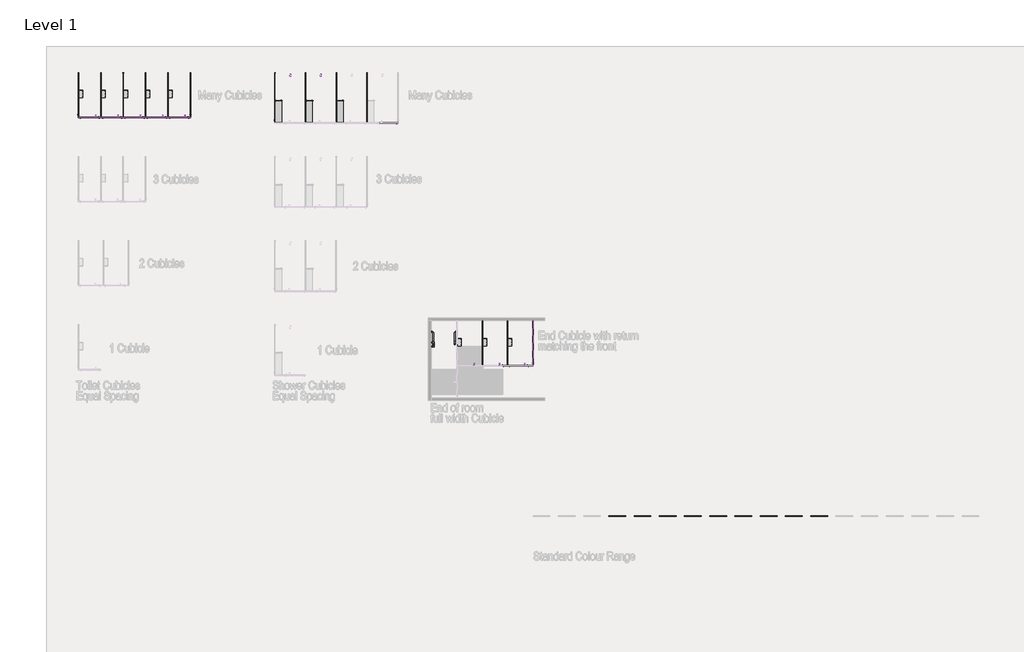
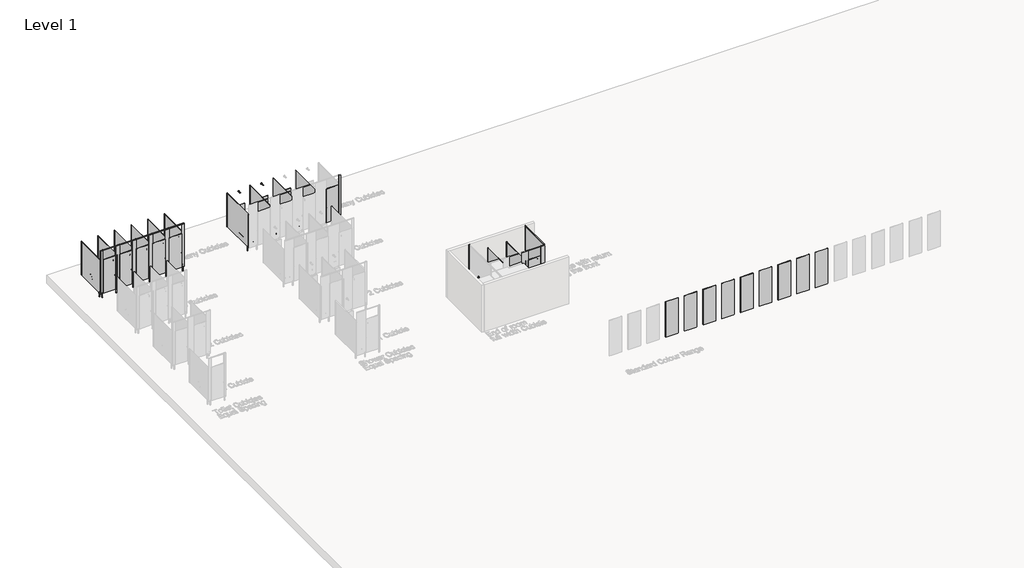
# One storey, part 6 of 21: 119 furniture elements, 11 proxies, 2 flow terminals.
"""IFC4 building model written with IfcOpenShell, lengths in millimetres."""

from ifc_helpers import new_model, si_unit, origin, place, context, project, spatial, transform, mapped, element, save
from components import grab_rail_angled_generic_variable_c761e824, toilet_paper_dispenser_single_generic_jumbo_roll_standard_5525cc7b, toilet_paper_dispenser_single_generic_type_1_standard_8c8862bc, shower_outlet_generic_cylinder_fixed_standard_5790de0d, furniture_50x50x3_ea_0fb80352, single_jumbo_roll_84fdac57, standard_9bd00577, standard_17157e73, standard_65739662, standard_f6136b52, standard_7c3ea897, standard_652f884a, standard_0ccb0c43, standard_39e46a34, standard_4bb00b36, standard_c51d1a0a, standard_48cda198, standard_a03910e7, standard_bb5a53c5, standard_d9afaeec, standard_d7bb3af3, standard_31cafe8a, standard_3d746f33, standard_4055153e, standard_ba3eb68e, standard_a495ee6c, standard_6f46902e, standard_67804c96, standard_4ddd5521, standard_c67f05f5, standard_1bf8a628

model = new_model("IFC4")

# Units and contexts
model_context = context("Model", 3, world=origin())
ifc_project = project(units=[si_unit("LENGTHUNIT", "METRE", prefix="MILLI")], contexts=[model_context])

# Site, building, storey
site = spatial("IfcSite", under=ifc_project)
building = spatial("IfcBuilding", under=site)
storey = spatial("IfcBuildingStorey", under=building, Name="Level 1", Elevation=0.0)

# Proxies
placement = place(None, origin())
grab_rail_angled_generic_variable_shape = grab_rail_angled_generic_variable_c761e824(model_context)
element("IfcBuildingElementProxy", 1, Name="Grab Rail-Angled-Generic-Variable : Ambulant-32Ø 450+450@90°", ObjectType="Grab Rail-Angled-Generic-Variable : Ambulant-32Ø 450+450@90°", at=placement, inside=storey, context=model_context, shape_type="MappedRepresentation", body=[
    mapped(grab_rail_angled_generic_variable_shape, transform((-14320.8822845, 24305.3616863, 784.0), x_axis=(0.0, 1.0, 0.0), y_axis=(0.0, 0.0, 1.0), z_axis=(1.0, 0.0, 0.0))),
])
element("IfcBuildingElementProxy", 2, Name="Grab Rail-Angled-Generic-Variable : Ambulant-32Ø 450+450@90°", ObjectType="Grab Rail-Angled-Generic-Variable : Ambulant-32Ø 450+450@90°", at=placement, inside=storey, context=model_context, shape_type="MappedRepresentation", body=[
    mapped(grab_rail_angled_generic_variable_shape, transform((-13400.8822845, 24080.8616863, 1009.0), x_axis=(0.0, 0.0, 1.0), y_axis=(0.0, 1.0, 0.0), z_axis=(-1.0, 0.0, 0.0))),
])
toilet_paper_dispenser_single_generic_jumbo_roll_standard_shape = toilet_paper_dispenser_single_generic_jumbo_roll_standard_5525cc7b(model_context)
element("IfcBuildingElementProxy", 3, Name="Toilet Paper Dispenser-Single-Generic-Jumbo Roll : Standard", ObjectType="Toilet Paper Dispenser-Single-Generic-Jumbo Roll : Standard", at=placement, inside=storey, context=model_context, shape_type="MappedRepresentation", body=[
    mapped(toilet_paper_dispenser_single_generic_jumbo_roll_standard_shape, transform((-12487.8822845, 24151.3616863, 561.5), x_axis=(0.0, 1.0, 0.0), y_axis=(0.0, 0.0, 1.0), z_axis=(1.0, 0.0, 0.0))),
])
element("IfcBuildingElementProxy", 4, Name="Toilet Paper Dispenser-Single-Generic-Jumbo Roll : Standard", ObjectType="Toilet Paper Dispenser-Single-Generic-Jumbo Roll : Standard", at=placement, inside=storey, context=model_context, shape_type="MappedRepresentation", body=[
    mapped(toilet_paper_dispenser_single_generic_jumbo_roll_standard_shape, transform((-11587.8822845, 24151.3616863, 561.5), x_axis=(0.0, 1.0, 0.0), y_axis=(0.0, 0.0, 1.0), z_axis=(1.0, 0.0, 0.0))),
])
element("IfcBuildingElementProxy", 5, Name="Toilet Paper Dispenser-Single-Generic-Jumbo Roll : Standard", ObjectType="Toilet Paper Dispenser-Single-Generic-Jumbo Roll : Standard", at=placement, inside=storey, context=model_context, shape_type="MappedRepresentation", body=[
    mapped(toilet_paper_dispenser_single_generic_jumbo_roll_standard_shape, transform((-24496.5801542, 33012.2607897, 561.5), x_axis=(0.0, 1.0, 0.0), y_axis=(0.0, 0.0, 1.0), z_axis=(1.0, 0.0, 0.0))),
])
element("IfcBuildingElementProxy", 6, Name="Toilet Paper Dispenser-Single-Generic-Jumbo Roll : Standard", ObjectType="Toilet Paper Dispenser-Single-Generic-Jumbo Roll : Standard", at=placement, inside=storey, context=model_context, shape_type="MappedRepresentation", body=[
    mapped(toilet_paper_dispenser_single_generic_jumbo_roll_standard_shape, transform((-25293.9801542, 33012.2607897, 561.5), x_axis=(0.0, 1.0, 0.0), y_axis=(0.0, 0.0, 1.0), z_axis=(1.0, 0.0, 0.0))),
])
element("IfcBuildingElementProxy", 7, Name="Toilet Paper Dispenser-Single-Generic-Jumbo Roll : Standard", ObjectType="Toilet Paper Dispenser-Single-Generic-Jumbo Roll : Standard", at=placement, inside=storey, context=model_context, shape_type="MappedRepresentation", body=[
    mapped(toilet_paper_dispenser_single_generic_jumbo_roll_standard_shape, transform((-26091.3801542, 33012.2607897, 561.5), x_axis=(0.0, 1.0, 0.0), y_axis=(0.0, 0.0, 1.0), z_axis=(1.0, 0.0, 0.0))),
])
element("IfcBuildingElementProxy", 8, Name="Toilet Paper Dispenser-Single-Generic-Jumbo Roll : Standard", ObjectType="Toilet Paper Dispenser-Single-Generic-Jumbo Roll : Standard", at=placement, inside=storey, context=model_context, shape_type="MappedRepresentation", body=[
    mapped(toilet_paper_dispenser_single_generic_jumbo_roll_standard_shape, transform((-23699.1801542, 33012.2607897, 561.5), x_axis=(0.0, 1.0, 0.0), y_axis=(0.0, 0.0, 1.0), z_axis=(1.0, 0.0, 0.0))),
])
element("IfcBuildingElementProxy", 9, Name="Toilet Paper Dispenser-Single-Generic-Jumbo Roll : Standard", ObjectType="Toilet Paper Dispenser-Single-Generic-Jumbo Roll : Standard", at=placement, inside=storey, context=model_context, shape_type="MappedRepresentation", body=[
    mapped(toilet_paper_dispenser_single_generic_jumbo_roll_standard_shape, transform((-26888.7801542, 33012.2607897, 561.5), x_axis=(0.0, 1.0000000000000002, 0.0), y_axis=(0.0, 0.0, 1.0), z_axis=(1.0000000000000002, 0.0, 0.0))),
])
element("IfcBuildingElementProxy", 10, Name="Toilet Paper Dispenser-Single-Generic-Jumbo Roll : Standard", ObjectType="Toilet Paper Dispenser-Single-Generic-Jumbo Roll : Standard", at=placement, inside=storey, context=model_context, shape_type="MappedRepresentation", body=[
    mapped(toilet_paper_dispenser_single_generic_jumbo_roll_standard_shape, transform((-13387.8822845, 24151.3616863, 561.5), x_axis=(0.0, 1.0000000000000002, 0.0), y_axis=(0.0, 0.0, 1.0), z_axis=(1.0000000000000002, 0.0, 0.0))),
])
toilet_paper_dispenser_single_generic_type_1_standard_shape = toilet_paper_dispenser_single_generic_type_1_standard_8c8862bc(model_context)
element("IfcBuildingElementProxy", 11, Name="Toilet Paper Dispenser-Single-Generic-Type 1 : Standard", ObjectType="Toilet Paper Dispenser-Single-Generic-Type 1 : Standard", at=placement, inside=storey, context=model_context, shape_type="MappedRepresentation", body=[
    mapped(toilet_paper_dispenser_single_generic_type_1_standard_shape, transform((-14320.8822845, 24073.8616863, 605.0), x_axis=(0.0, 1.0, 0.0), y_axis=(0.0, 0.0, 1.0), z_axis=(1.0, 0.0, 0.0))),
])

# Flow terminals
shower_outlet_generic_cylinder_fixed_standard_shape = shower_outlet_generic_cylinder_fixed_standard_5790de0d(model_context)
element("IfcFlowTerminal", 12, ObjectType="Shower-Outlet-Generic-Cylinder-Fixed : Standard", at=placement, inside=storey, context=model_context, shape_type="MappedRepresentation", body=[
    mapped(shower_outlet_generic_cylinder_fixed_standard_shape, transform((-19346.9051542, 33782.2607897, 1800.0), x_axis=(1.0, 0.0, 0.0), y_axis=(0.0, 0.0, 1.0), z_axis=(0.0, -1.0, 0.0))),
])
element("IfcFlowTerminal", 13, ObjectType="Shower-Outlet-Generic-Cylinder-Fixed : Standard", at=placement, inside=storey, context=model_context, shape_type="MappedRepresentation", body=[
    mapped(shower_outlet_generic_cylinder_fixed_standard_shape, transform((-18250.1551542, 33782.2607897, 1800.0), x_axis=(1.0, 0.0, 0.0), y_axis=(0.0, 0.0, 1.0), z_axis=(0.0, -1.0, 0.0))),
])

# Furniture
furniture_50x50x3_ea_shape = furniture_50x50x3_ea_0fb80352(model_context)
element("IfcFurniture", 14, ObjectType="X_Partition-Angle-Duracube-Shower Seat : 50x50x3 EA", at=placement, inside=storey, context=model_context, shape_type="MappedRepresentation", body=[
    mapped(furniture_50x50x3_ea_shape, transform((-17695.2801542, 32719.2607897, 462.0), x_axis=(0.0, -1.0, 0.0), y_axis=(0.0, 0.0, -1.0), z_axis=(1.0, 0.0, 0.0))),
])
element("IfcFurniture", 15, ObjectType="X_Partition-Angle-Duracube-Shower Seat : 50x50x3 EA", at=placement, inside=storey, context=model_context, shape_type="MappedRepresentation", body=[
    mapped(furniture_50x50x3_ea_shape, transform((-17695.2801542, 32032.2607897, 462.0), x_axis=(0.0, -1.0, 0.0), y_axis=(0.0, 0.0, -1.0), z_axis=(1.0, 0.0, 0.0))),
])
element("IfcFurniture", 16, ObjectType="X_Partition-Angle-Duracube-Shower Seat : 50x50x3 EA", at=placement, inside=storey, context=model_context, shape_type="MappedRepresentation", body=[
    mapped(furniture_50x50x3_ea_shape, transform((-17695.2801542, 32375.7607897, 462.0), x_axis=(0.0, -1.0, 0.0), y_axis=(0.0, 0.0, -1.0), z_axis=(1.0, 0.0, 0.0))),
])
element("IfcFurniture", 17, ObjectType="X_Partition-Angle-Duracube-Shower Seat : 50x50x3 EA", at=placement, inside=storey, context=model_context, shape_type="MappedRepresentation", body=[
    mapped(furniture_50x50x3_ea_shape, transform((-17480.2801542, 32769.2607897, 462.0), x_axis=(-1.0, 0.0, 0.0), y_axis=(0.0, 0.0, -1.0), z_axis=(0.0, -1.0, 0.0))),
])
element("IfcFurniture", 18, ObjectType="X_Partition-Angle-Duracube-Shower Seat : 50x50x3 EA", at=placement, inside=storey, context=model_context, shape_type="MappedRepresentation", body=[
    mapped(furniture_50x50x3_ea_shape, transform((-17480.2801542, 32007.2607897, 487.0), x_axis=(-1.0, 0.0, 0.0), y_axis=(0.0, 1.0, 0.0), z_axis=(0.0, 0.0, -1.0))),
])
element("IfcFurniture", 19, ObjectType="X_Partition-Angle-Duracube-Shower Seat : 50x50x3 EA", at=placement, inside=storey, context=model_context, shape_type="MappedRepresentation", body=[
    mapped(furniture_50x50x3_ea_shape, transform((-18792.0301542, 32719.2607897, 462.0), x_axis=(0.0, -1.0, 0.0), y_axis=(0.0, 0.0, -1.0), z_axis=(1.0, 0.0, 0.0))),
])
element("IfcFurniture", 20, ObjectType="X_Partition-Angle-Duracube-Shower Seat : 50x50x3 EA", at=placement, inside=storey, context=model_context, shape_type="MappedRepresentation", body=[
    mapped(furniture_50x50x3_ea_shape, transform((-18792.0301542, 32032.2607897, 462.0), x_axis=(0.0, -1.0, 0.0), y_axis=(0.0, 0.0, -1.0), z_axis=(1.0, 0.0, 0.0))),
])
element("IfcFurniture", 21, ObjectType="X_Partition-Angle-Duracube-Shower Seat : 50x50x3 EA", at=placement, inside=storey, context=model_context, shape_type="MappedRepresentation", body=[
    mapped(furniture_50x50x3_ea_shape, transform((-18792.0301542, 32375.7607897, 462.0), x_axis=(0.0, -1.0, 0.0), y_axis=(0.0, 0.0, -1.0), z_axis=(1.0, 0.0, 0.0))),
])
element("IfcFurniture", 22, ObjectType="X_Partition-Angle-Duracube-Shower Seat : 50x50x3 EA", at=placement, inside=storey, context=model_context, shape_type="MappedRepresentation", body=[
    mapped(furniture_50x50x3_ea_shape, transform((-18577.0301542, 32769.2607897, 462.0), x_axis=(-1.0, 0.0, 0.0), y_axis=(0.0, 0.0, -1.0), z_axis=(0.0, -1.0, 0.0))),
])
element("IfcFurniture", 23, ObjectType="X_Partition-Angle-Duracube-Shower Seat : 50x50x3 EA", at=placement, inside=storey, context=model_context, shape_type="MappedRepresentation", body=[
    mapped(furniture_50x50x3_ea_shape, transform((-18577.0301542, 32007.2607897, 487.0), x_axis=(-1.0, 0.0, 0.0), y_axis=(0.0, 1.0, 0.0), z_axis=(0.0, 0.0, -1.0))),
])
element("IfcFurniture", 24, ObjectType="X_Partition-Angle-Duracube-Shower Seat : 50x50x3 EA", at=placement, inside=storey, context=model_context, shape_type="MappedRepresentation", body=[
    mapped(furniture_50x50x3_ea_shape, transform((-19888.7801542, 32719.2607897, 462.0), x_axis=(0.0, -1.0, 0.0), y_axis=(0.0, 0.0, -1.0), z_axis=(1.0, 0.0, 0.0))),
])
element("IfcFurniture", 25, ObjectType="X_Partition-Angle-Duracube-Shower Seat : 50x50x3 EA", at=placement, inside=storey, context=model_context, shape_type="MappedRepresentation", body=[
    mapped(furniture_50x50x3_ea_shape, transform((-19888.7801542, 32032.2607897, 462.0), x_axis=(0.0, -1.0, 0.0), y_axis=(0.0, 0.0, -1.0), z_axis=(1.0, 0.0, 0.0))),
])
element("IfcFurniture", 26, ObjectType="X_Partition-Angle-Duracube-Shower Seat : 50x50x3 EA", at=placement, inside=storey, context=model_context, shape_type="MappedRepresentation", body=[
    mapped(furniture_50x50x3_ea_shape, transform((-19888.7801542, 32375.7607897, 462.0), x_axis=(0.0, -1.0, 0.0), y_axis=(0.0, 0.0, -1.0), z_axis=(1.0, 0.0, 0.0))),
])
element("IfcFurniture", 27, ObjectType="X_Partition-Angle-Duracube-Shower Seat : 50x50x3 EA", at=placement, inside=storey, context=model_context, shape_type="MappedRepresentation", body=[
    mapped(furniture_50x50x3_ea_shape, transform((-19673.7801542, 32769.2607897, 462.0), x_axis=(-1.0, 0.0, 0.0), y_axis=(0.0, 0.0, -1.0), z_axis=(0.0, -1.0, 0.0))),
])
element("IfcFurniture", 28, ObjectType="X_Partition-Angle-Duracube-Shower Seat : 50x50x3 EA", at=placement, inside=storey, context=model_context, shape_type="MappedRepresentation", body=[
    mapped(furniture_50x50x3_ea_shape, transform((-19673.7801542, 32007.2607897, 487.0), x_axis=(-1.0, 0.0, 0.0), y_axis=(0.0, 1.0, 0.0), z_axis=(0.0, 0.0, -1.0))),
])
single_jumbo_roll_shape = single_jumbo_roll_84fdac57(model_context)
element("IfcFurniture", 29, ObjectType="X_Partition-Compact Laminate-Duracube-Rectangular : Single Jumbo Roll", at=placement, inside=storey, context=model_context, shape_type="MappedRepresentation", body=[
    mapped(single_jumbo_roll_shape, transform((-26901.7801542, 32937.5604633, 0.0), x_axis=(0.0, 1.0000000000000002, 0.0), y_axis=(-1.0000000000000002, 0.0, 0.0), z_axis=(0.0, 0.0, 1.0))),
])
element("IfcFurniture", 30, ObjectType="X_Partition-Compact Laminate-Duracube-Rectangular : Single Jumbo Roll", at=placement, inside=storey, context=model_context, shape_type="MappedRepresentation", body=[
    mapped(single_jumbo_roll_shape, transform((-12500.8822845, 24076.6613599, 0.0), x_axis=(0.0, 1.0, 0.0), y_axis=(-1.0, 0.0, 0.0), z_axis=(0.0, 0.0, 1.0))),
])
element("IfcFurniture", 31, ObjectType="X_Partition-Compact Laminate-Duracube-Rectangular : Single Jumbo Roll", at=placement, inside=storey, context=model_context, shape_type="MappedRepresentation", body=[
    mapped(single_jumbo_roll_shape, transform((-11600.8822845, 24076.6613599, 0.0), x_axis=(0.0, 1.0, 0.0), y_axis=(-1.0, 0.0, 0.0), z_axis=(0.0, 0.0, 1.0))),
])
element("IfcFurniture", 32, ObjectType="X_Partition-Compact Laminate-Duracube-Rectangular : Single Jumbo Roll", at=placement, inside=storey, context=model_context, shape_type="MappedRepresentation", body=[
    mapped(single_jumbo_roll_shape, transform((-24509.5801542, 32937.5604633, 0.0), x_axis=(0.0, 1.0, 0.0), y_axis=(-1.0, 0.0, 0.0), z_axis=(0.0, 0.0, 1.0))),
])
element("IfcFurniture", 33, ObjectType="X_Partition-Compact Laminate-Duracube-Rectangular : Single Jumbo Roll", at=placement, inside=storey, context=model_context, shape_type="MappedRepresentation", body=[
    mapped(single_jumbo_roll_shape, transform((-25306.9801542, 32937.5604633, 0.0), x_axis=(0.0, 1.0, 0.0), y_axis=(-1.0, 0.0, 0.0), z_axis=(0.0, 0.0, 1.0))),
])
element("IfcFurniture", 34, ObjectType="X_Partition-Compact Laminate-Duracube-Rectangular : Single Jumbo Roll", at=placement, inside=storey, context=model_context, shape_type="MappedRepresentation", body=[
    mapped(single_jumbo_roll_shape, transform((-26104.3801542, 32937.5604633, 0.0), x_axis=(0.0, 1.0, 0.0), y_axis=(-1.0, 0.0, 0.0), z_axis=(0.0, 0.0, 1.0))),
])
element("IfcFurniture", 35, ObjectType="X_Partition-Compact Laminate-Duracube-Rectangular : Single Jumbo Roll", at=placement, inside=storey, context=model_context, shape_type="MappedRepresentation", body=[
    mapped(single_jumbo_roll_shape, transform((-23712.1801542, 32937.5604633, 0.0), x_axis=(0.0, 1.0, 0.0), y_axis=(-1.0, 0.0, 0.0), z_axis=(0.0, 0.0, 1.0))),
])
standard_shape = standard_9bd00577(model_context)
element("IfcFurniture", 36, ObjectType="X_Partition-Compact Laminate-Duracube-Rectangular : Standard", at=placement, inside=storey, context=model_context, shape_type="MappedRepresentation", body=[
    mapped(standard_shape, transform((-5030.1169784, 17955.4926651, 0.0), x_axis=(1.0, 0.0, 0.0), y_axis=(0.0, 1.0, 0.0), z_axis=(0.0, 0.0, 1.0))),
])
element("IfcFurniture", 37, ObjectType="X_Partition-Compact Laminate-Duracube-Rectangular : Standard", at=placement, inside=storey, context=model_context, shape_type="MappedRepresentation", body=[
    mapped(standard_shape, transform((-4130.1169784, 17955.4926651, 0.0), x_axis=(1.0, 0.0, 0.0), y_axis=(0.0, 1.0, 0.0), z_axis=(0.0, 0.0, 1.0))),
])
element("IfcFurniture", 38, ObjectType="X_Partition-Compact Laminate-Duracube-Rectangular : Standard", at=placement, inside=storey, context=model_context, shape_type="MappedRepresentation", body=[
    mapped(standard_shape, transform((-3230.1169784, 17955.4926651, 0.0), x_axis=(1.0, 0.0, 0.0), y_axis=(0.0, 1.0, 0.0), z_axis=(0.0, 0.0, 1.0))),
])
element("IfcFurniture", 39, ObjectType="X_Partition-Compact Laminate-Duracube-Rectangular : Standard", at=placement, inside=storey, context=model_context, shape_type="MappedRepresentation", body=[
    mapped(standard_shape, transform((-1430.1169784, 17955.4926651, 0.0), x_axis=(1.0, 0.0, 0.0), y_axis=(0.0, 1.0, 0.0), z_axis=(0.0, 0.0, 1.0))),
])
standard_2_shape = standard_17157e73(model_context)
element("IfcFurniture", 40, ObjectType="X_Partition-Compact Laminate-Duracube-Rectangular : Standard", at=placement, inside=storey, context=model_context, shape_type="MappedRepresentation", body=[
    mapped(standard_2_shape, transform((-19901.7801542, 32837.5604633, 0.0), x_axis=(0.0, 1.0000000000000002, 0.0), y_axis=(-1.0000000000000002, 0.0, 0.0), z_axis=(0.0, 0.0, 1.0))),
])
element("IfcFurniture", 41, ObjectType="X_Partition-Compact Laminate-Duracube-Rectangular : Standard", at=placement, inside=storey, context=model_context, shape_type="MappedRepresentation", body=[
    mapped(standard_2_shape, transform((-18805.0301542, 32837.5604633, 0.0), x_axis=(0.0, 1.0, 0.0), y_axis=(-1.0, 0.0, 0.0), z_axis=(0.0, 0.0, 1.0))),
])
element("IfcFurniture", 42, ObjectType="X_Partition-Compact Laminate-Duracube-Rectangular : Standard", at=placement, inside=storey, context=model_context, shape_type="MappedRepresentation", body=[
    mapped(standard_2_shape, transform((-17708.2801542, 32837.5604633, 0.0), x_axis=(0.0, 1.0, 0.0), y_axis=(-1.0, 0.0, 0.0), z_axis=(0.0, 0.0, 1.0))),
])
element("IfcFurniture", 43, ObjectType="X_Partition-Compact Laminate-Duracube-Rectangular : Standard", at=placement, inside=storey, context=model_context, shape_type="MappedRepresentation", body=[
    mapped(standard_2_shape, transform((-16611.5301542, 32837.5604633, 0.0), x_axis=(0.0, 1.0, 0.0), y_axis=(-1.0, 0.0, 0.0), z_axis=(0.0, 0.0, 1.0))),
])
element("IfcFurniture", 44, ObjectType="X_Partition-Compact Laminate-Duracube-Rectangular : Standard", at=placement, inside=storey, context=model_context, shape_type="MappedRepresentation", body=[
    mapped(single_jumbo_roll_shape, transform((-22914.7801542, 32937.5604633, 0.0), x_axis=(0.0, 1.0000000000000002, 0.0), y_axis=(-1.0000000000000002, 0.0, 0.0), z_axis=(0.0, 0.0, 1.0))),
])
standard_3_shape = standard_65739662(model_context)
element("IfcFurniture", 45, ObjectType="X_Partition-Compact Laminate-Duracube-Shower Seat & Division : Standard", at=placement, inside=storey, context=model_context, shape_type="MappedRepresentation", body=[
    mapped(standard_3_shape, transform((-17516.5798277, 32782.2607897, 0.0), x_axis=(-1.0, 0.0, 0.0), y_axis=(0.0, -1.0, 0.0), z_axis=(0.0, 0.0, 1.0))),
])
element("IfcFurniture", 46, ObjectType="X_Partition-Compact Laminate-Duracube-Shower Seat & Division : Standard", at=placement, inside=storey, context=model_context, shape_type="MappedRepresentation", body=[
    mapped(standard_3_shape, transform((-18613.3298277, 32782.2607897, 0.0), x_axis=(-1.0, 0.0, 0.0), y_axis=(0.0, -1.0, 0.0), z_axis=(0.0, 0.0, 1.0))),
])
element("IfcFurniture", 47, ObjectType="X_Partition-Compact Laminate-Duracube-Shower Seat & Division : Standard", at=placement, inside=storey, context=model_context, shape_type="MappedRepresentation", body=[
    mapped(standard_3_shape, transform((-19710.0798277, 32782.2607897, 0.0), x_axis=(-1.0, 0.0, 0.0), y_axis=(0.0, -1.0, 0.0), z_axis=(0.0, 0.0, 1.0))),
])
standard_4_shape = standard_f6136b52(model_context)
element("IfcFurniture", 48, ObjectType="X_Partition-Channel-Duracube-End : Standard", at=placement, inside=storey, context=model_context, shape_type="MappedRepresentation", body=[
    mapped(standard_4_shape, transform((-17724.9804806, 32769.2607897, 0.0), x_axis=(1.0000000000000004, 0.0, 0.0), y_axis=(0.0, 1.0000000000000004, 0.0), z_axis=(0.0, 0.0, 1.0))),
])
element("IfcFurniture", 49, ObjectType="X_Partition-Channel-Duracube-End : Standard", at=placement, inside=storey, context=model_context, shape_type="MappedRepresentation", body=[
    mapped(standard_4_shape, transform((-18821.7304806, 32769.2607897, 0.0), x_axis=(1.0000000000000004, 0.0, 0.0), y_axis=(0.0, 1.0000000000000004, 0.0), z_axis=(0.0, 0.0, 1.0))),
])
element("IfcFurniture", 50, ObjectType="X_Partition-Channel-Duracube-End : Standard", at=placement, inside=storey, context=model_context, shape_type="MappedRepresentation", body=[
    mapped(standard_4_shape, transform((-19918.4804806, 32769.2607897, 0.0), x_axis=(1.0000000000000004, 0.0, 0.0), y_axis=(0.0, 1.0000000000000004, 0.0), z_axis=(0.0, 0.0, 1.0))),
])
standard_5_shape = standard_7c3ea897(model_context)
element("IfcFurniture", 51, ObjectType="X_Partition-Channel-Duracube-End : Standard", at=placement, inside=storey, context=model_context, shape_type="MappedRepresentation", body=[
    mapped(standard_5_shape, transform((-13400.8822845, 24951.0620127, 0.0), x_axis=(0.0, -1.0000000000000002, 0.0), y_axis=(1.0000000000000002, 0.0, 0.0), z_axis=(0.0, 0.0, 1.0))),
])
standard_6_shape = standard_652f884a(model_context)
element("IfcFurniture", 52, ObjectType="X_Partition-Compact Laminate-Duracube-Rectangular : Standard", at=placement, inside=storey, context=model_context, shape_type="MappedRepresentation", body=[
    mapped(standard_6_shape, transform((-15587.4804806, 31982.2607897, 0.0), x_axis=(1.0, 0.0, 0.0), y_axis=(0.0, 1.0, 0.0), z_axis=(0.0, 0.0, 1.0))),
])
standard_7_shape = standard_0ccb0c43(model_context)
element("IfcFurniture", 53, ObjectType="X_Partition-Compact Laminate-Duracube-Rectangular : Standard", at=placement, inside=storey, context=model_context, shape_type="MappedRepresentation", body=[
    mapped(standard_7_shape, transform((-26892.9804806, 32182.2607897, 0.0), x_axis=(1.0, 0.0, 0.0), y_axis=(0.0, 1.0, 0.0), z_axis=(0.0, 0.0, 1.0))),
])
standard_8_shape = standard_39e46a34(model_context)
element("IfcFurniture", 54, ObjectType="X_Partition-Compact Laminate-Duracube-Rectangular : Standard", at=placement, inside=storey, context=model_context, shape_type="MappedRepresentation", body=[
    mapped(standard_8_shape, transform((-22993.4804806, 32182.2607897, 0.0), x_axis=(1.0, 0.0, 0.0), y_axis=(0.0, 1.0, 0.0), z_axis=(0.0, 0.0, 1.0))),
])
standard_9_shape = standard_4bb00b36(model_context)
element("IfcFurniture", 55, ObjectType="X_Partition-Compact Laminate-Duracube-Rectangular : Standard", at=placement, inside=storey, context=model_context, shape_type="MappedRepresentation", body=[
    mapped(standard_9_shape, transform((-25338.6804806, 32182.2607897, 0.0), x_axis=(1.0, 0.0, 0.0), y_axis=(0.0, 1.0, 0.0), z_axis=(0.0, 0.0, 1.0))),
])
element("IfcFurniture", 56, ObjectType="X_Partition-Compact Laminate-Duracube-Rectangular : Standard", at=placement, inside=storey, context=model_context, shape_type="MappedRepresentation", body=[
    mapped(standard_9_shape, transform((-26136.0804806, 32182.2607897, 0.0), x_axis=(1.0, 0.0, 0.0), y_axis=(0.0, 1.0, 0.0), z_axis=(0.0, 0.0, 1.0))),
])
element("IfcFurniture", 57, ObjectType="X_Partition-Compact Laminate-Duracube-Rectangular : Standard", at=placement, inside=storey, context=model_context, shape_type="MappedRepresentation", body=[
    mapped(standard_9_shape, transform((-23743.8804806, 32182.2607897, 0.0), x_axis=(1.0, 0.0, 0.0), y_axis=(0.0, 1.0, 0.0), z_axis=(0.0, 0.0, 1.0))),
])
element("IfcFurniture", 58, ObjectType="X_Partition-Compact Laminate-Duracube-Rectangular : Standard", at=placement, inside=storey, context=model_context, shape_type="MappedRepresentation", body=[
    mapped(standard_9_shape, transform((-24541.2804806, 32182.2607897, 0.0), x_axis=(1.0, 0.0, 0.0), y_axis=(0.0, 1.0, 0.0), z_axis=(0.0, 0.0, 1.0))),
])
standard_10_shape = standard_c51d1a0a(model_context)
element("IfcFurniture", 59, ObjectType="X_Partition-Compact Laminate-Duracube-Rectangular : Standard", at=placement, inside=storey, context=model_context, shape_type="MappedRepresentation", body=[
    mapped(standard_10_shape, transform((-11682.5826109, 23321.3616863, 0.0), x_axis=(1.0, 0.0, 0.0), y_axis=(0.0, 1.0, 0.0), z_axis=(0.0, 0.0, 1.0))),
])
standard_11_shape = standard_48cda198(model_context)
element("IfcFurniture", 60, ObjectType="X_Partition-Compact Laminate-Duracube-Rectangular : Standard", at=placement, inside=storey, context=model_context, shape_type="MappedRepresentation", body=[
    mapped(standard_11_shape, transform((-10700.8822845, 24076.6613599, 0.0), x_axis=(0.0, 1.0000000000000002, 0.0), y_axis=(-1.0000000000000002, 0.0, 0.0), z_axis=(0.0, 0.0, 1.0))),
])
standard_12_shape = standard_a03910e7(model_context)
element("IfcFurniture", 61, ObjectType="X_Partition-Channel-Duracube-Corner : Standard", at=placement, inside=storey, context=model_context, shape_type="MappedRepresentation", body=[
    mapped(standard_12_shape, transform((-10662.9319581, 23351.3616863, 0.0), x_axis=(-1.0, 0.0, 0.0), y_axis=(0.0, -1.0, 0.0), z_axis=(0.0, 0.0, 1.0))),
])
standard_13_shape = standard_bb5a53c5(model_context)
element("IfcFurniture", 62, ObjectType="X_Partition-Compact Laminate-Duracube-Rectangular : Standard", at=placement, inside=storey, context=model_context, shape_type="MappedRepresentation", body=[
    mapped(standard_13_shape, transform((-10829.5826109, 23321.3616863, 0.0), x_axis=(1.0, 0.0, 0.0), y_axis=(0.0, 1.0, 0.0), z_axis=(0.0, 0.0, 1.0))),
])
element("IfcFurniture", 63, ObjectType="X_Partition-Compact Laminate-Duracube-Rectangular : Standard", at=placement, inside=storey, context=model_context, shape_type="MappedRepresentation", body=[
    mapped(standard_shape, transform((-7730.1169784, 17955.4926651, 0.0), x_axis=(1.0, 0.0, 0.0), y_axis=(0.0, 1.0, 0.0), z_axis=(0.0, 0.0, 1.0))),
])
element("IfcFurniture", 64, ObjectType="X_Partition-Compact Laminate-Duracube-Rectangular : Standard", at=placement, inside=storey, context=model_context, shape_type="MappedRepresentation", body=[
    mapped(standard_shape, transform((-6830.1169784, 17955.4926651, 0.0), x_axis=(1.0, 0.0, 0.0), y_axis=(0.0, 1.0, 0.0), z_axis=(0.0, 0.0, 1.0))),
])
element("IfcFurniture", 65, ObjectType="X_Partition-Compact Laminate-Duracube-Rectangular : Standard", at=placement, inside=storey, context=model_context, shape_type="MappedRepresentation", body=[
    mapped(standard_shape, transform((-5930.1169784, 17955.4926651, 0.0), x_axis=(1.0, 0.0, 0.0), y_axis=(0.0, 1.0, 0.0), z_axis=(0.0, 0.0, 1.0))),
])
element("IfcFurniture", 66, ObjectType="X_Partition-Compact Laminate-Duracube-Rectangular : Standard", at=placement, inside=storey, context=model_context, shape_type="MappedRepresentation", body=[
    mapped(standard_shape, transform((-2330.1169784, 17955.4926651, 0.0), x_axis=(1.0, 0.0, 0.0), y_axis=(0.0, 1.0, 0.0), z_axis=(0.0, 0.0, 1.0))),
])
element("IfcFurniture", 67, ObjectType="X_Partition-Compact Laminate-Duracube-Rectangular : Standard", at=placement, inside=storey, context=model_context, shape_type="MappedRepresentation", body=[
    mapped(standard_shape, transform((-530.1169784, 17955.4926651, 0.0), x_axis=(1.0, 0.0, 0.0), y_axis=(0.0, 1.0, 0.0), z_axis=(0.0, 0.0, 1.0))),
])
standard_14_shape = standard_d9afaeec(model_context)
element("IfcFurniture", 68, ObjectType="X_Partition-Compact Laminate-Duracube-Door : Standard", at=placement, inside=storey, context=model_context, shape_type="MappedRepresentation", body=[
    mapped(standard_14_shape, transform((-11232.5826109, 23321.3616863, 0.0), x_axis=(1.0, 0.0, 0.0), y_axis=(0.0, 1.0, 0.0), z_axis=(0.0, 0.0, 1.0))),
])
element("IfcFurniture", 69, ObjectType="X_Partition-Compact Laminate-Duracube-Door : Standard", at=placement, inside=storey, context=model_context, shape_type="MappedRepresentation", body=[
    mapped(standard_14_shape, transform((-15934.4804806, 31982.2607897, 0.0), x_axis=(1.0, 0.0, 0.0), y_axis=(0.0, 1.0, 0.0), z_axis=(0.0, 0.0, 1.0))),
])
standard_15_shape = standard_d7bb3af3(model_context)
element("IfcFurniture", 70, ObjectType="X_Partition-Compact Laminate-Duracube-Door : Standard", at=placement, inside=storey, context=model_context, shape_type="MappedRepresentation", body=[
    mapped(standard_15_shape, transform((-26534.7804806, 32182.2607897, 0.0), x_axis=(1.0, 0.0, 0.0), y_axis=(0.0, 1.0, 0.0), z_axis=(0.0, 0.0, 1.0))),
])
element("IfcFurniture", 71, ObjectType="X_Partition-Compact Laminate-Duracube-Door : Standard", at=placement, inside=storey, context=model_context, shape_type="MappedRepresentation", body=[
    mapped(standard_15_shape, transform((-24939.9804806, 32182.2607897, 0.0), x_axis=(1.0, 0.0, 0.0), y_axis=(0.0, 1.0, 0.0), z_axis=(0.0, 0.0, 1.0))),
])
element("IfcFurniture", 72, ObjectType="X_Partition-Compact Laminate-Duracube-Door : Standard", at=placement, inside=storey, context=model_context, shape_type="MappedRepresentation", body=[
    mapped(standard_15_shape, transform((-25737.3804806, 32182.2607897, 0.0), x_axis=(1.0, 0.0, 0.0), y_axis=(0.0, 1.0, 0.0), z_axis=(0.0, 0.0, 1.0))),
])
element("IfcFurniture", 73, ObjectType="X_Partition-Compact Laminate-Duracube-Door : Standard", at=placement, inside=storey, context=model_context, shape_type="MappedRepresentation", body=[
    mapped(standard_15_shape, transform((-23345.1804806, 32182.2607897, 0.0), x_axis=(1.0, 0.0, 0.0), y_axis=(0.0, 1.0, 0.0), z_axis=(0.0, 0.0, 1.0))),
])
element("IfcFurniture", 74, ObjectType="X_Partition-Compact Laminate-Duracube-Door : Standard", at=placement, inside=storey, context=model_context, shape_type="MappedRepresentation", body=[
    mapped(standard_15_shape, transform((-24142.5804806, 32182.2607897, 0.0), x_axis=(1.0, 0.0, 0.0), y_axis=(0.0, 1.0, 0.0), z_axis=(0.0, 0.0, 1.0))),
])
standard_16_shape = standard_31cafe8a(model_context)
element("IfcFurniture", 75, ObjectType="X_Partition-Robe Hook-Duracube-Door Stop : Standard", at=placement, inside=storey, context=model_context, shape_type="MappedRepresentation", body=[
    mapped(standard_16_shape, transform((-12787.8822845, 23321.3616863, 1700.0), x_axis=(-1.0, 0.0, 0.0), y_axis=(0.0, 0.0, 1.0), z_axis=(0.0, 1.0, 0.0))),
])
element("IfcFurniture", 76, ObjectType="X_Partition-Robe Hook-Duracube-Door Stop : Standard", at=placement, inside=storey, context=model_context, shape_type="MappedRepresentation", body=[
    mapped(standard_16_shape, transform((-10987.8822845, 23321.3616863, 1700.0), x_axis=(-1.0, 0.0, 0.0), y_axis=(0.0, 0.0, 1.0), z_axis=(0.0, 1.0, 0.0))),
])
element("IfcFurniture", 77, ObjectType="X_Partition-Robe Hook-Duracube-Door Stop : Standard", at=placement, inside=storey, context=model_context, shape_type="MappedRepresentation", body=[
    mapped(standard_16_shape, transform((-11887.8822845, 23321.3616863, 1700.0), x_axis=(-1.0, 0.0, 0.0), y_axis=(0.0, 0.0, 1.0), z_axis=(0.0, 1.0, 0.0))),
])
element("IfcFurniture", 78, ObjectType="X_Partition-Robe Hook-Duracube-Door Stop : Standard", at=placement, inside=storey, context=model_context, shape_type="MappedRepresentation", body=[
    mapped(standard_16_shape, transform((-26291.3801542, 32182.2607897, 1700.0), x_axis=(-1.0, 0.0, 0.0), y_axis=(0.0, 0.0, 1.0), z_axis=(0.0, 1.0, 0.0))),
])
element("IfcFurniture", 79, ObjectType="X_Partition-Robe Hook-Duracube-Door Stop : Standard", at=placement, inside=storey, context=model_context, shape_type="MappedRepresentation", body=[
    mapped(standard_16_shape, transform((-24696.5801542, 32182.2607897, 1700.0), x_axis=(-1.0, 0.0, 0.0), y_axis=(0.0, 0.0, 1.0), z_axis=(0.0, 1.0, 0.0))),
])
element("IfcFurniture", 80, ObjectType="X_Partition-Robe Hook-Duracube-Door Stop : Standard", at=placement, inside=storey, context=model_context, shape_type="MappedRepresentation", body=[
    mapped(standard_16_shape, transform((-25493.9801542, 32182.2607897, 1700.0), x_axis=(-1.0, 0.0, 0.0), y_axis=(0.0, 0.0, 1.0), z_axis=(0.0, 1.0, 0.0))),
])
element("IfcFurniture", 81, ObjectType="X_Partition-Robe Hook-Duracube-Door Stop : Standard", at=placement, inside=storey, context=model_context, shape_type="MappedRepresentation", body=[
    mapped(standard_16_shape, transform((-23101.7801542, 32182.2607897, 1700.0), x_axis=(-1.0, 0.0, 0.0), y_axis=(0.0, 0.0, 1.0), z_axis=(0.0, 1.0, 0.0))),
])
element("IfcFurniture", 82, ObjectType="X_Partition-Robe Hook-Duracube-Door Stop : Standard", at=placement, inside=storey, context=model_context, shape_type="MappedRepresentation", body=[
    mapped(standard_16_shape, transform((-23899.1801542, 32182.2607897, 1700.0), x_axis=(-1.0, 0.0, 0.0), y_axis=(0.0, 0.0, 1.0), z_axis=(0.0, 1.0, 0.0))),
])
standard_17_shape = standard_3d746f33(model_context)
element("IfcFurniture", 83, ObjectType="X_Partition-Foot-Duracube-Assembly : Standard", at=placement, inside=storey, context=model_context, shape_type="MappedRepresentation", body=[
    mapped(standard_17_shape, transform((-19921.7801542, 32031.0604633, 0.0), x_axis=(0.0, 1.0000000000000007, 0.0), y_axis=(-1.0000000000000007, 0.0, 0.0), z_axis=(0.0, 0.0, 1.0))),
])
element("IfcFurniture", 84, ObjectType="X_Partition-Foot-Duracube-Assembly : Standard", at=placement, inside=storey, context=model_context, shape_type="MappedRepresentation", body=[
    mapped(standard_17_shape, transform((-15502.5798277, 31949.2607897, 0.0), x_axis=(-1.0000000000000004, 0.0, 0.0), y_axis=(0.0, -1.0000000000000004, 0.0), z_axis=(0.0, 0.0, 1.0))),
])
element("IfcFurniture", 85, ObjectType="X_Partition-Foot-Duracube-Assembly : Standard", at=placement, inside=storey, context=model_context, shape_type="MappedRepresentation", body=[
    mapped(standard_17_shape, transform((-10800.6819581, 23288.3616863, 0.0), x_axis=(-1.0000000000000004, 0.0, 0.0), y_axis=(0.0, -1.0000000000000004, 0.0), z_axis=(0.0, 0.0, 1.0))),
])
element("IfcFurniture", 86, ObjectType="X_Partition-Foot-Duracube-Assembly : Standard", at=placement, inside=storey, context=model_context, shape_type="MappedRepresentation", body=[
    mapped(standard_17_shape, transform((-11700.6819581, 23288.3616863, 0.0), x_axis=(-1.0000000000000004, 0.0, 0.0), y_axis=(0.0, -1.0000000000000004, 0.0), z_axis=(0.0, 0.0, 1.0))),
])
element("IfcFurniture", 87, ObjectType="X_Partition-Foot-Duracube-Assembly : Standard", at=placement, inside=storey, context=model_context, shape_type="MappedRepresentation", body=[
    mapped(standard_17_shape, transform((-11485.6819581, 23288.3616863, 0.0), x_axis=(-1.0000000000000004, 0.0, 0.0), y_axis=(0.0, -1.0000000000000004, 0.0), z_axis=(0.0, 0.0, 1.0))),
])
element("IfcFurniture", 88, ObjectType="X_Partition-Foot-Duracube-Assembly : Standard", at=placement, inside=storey, context=model_context, shape_type="MappedRepresentation", body=[
    mapped(standard_17_shape, transform((-26786.5798277, 32149.2607897, 0.0), x_axis=(-1.0000000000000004, 0.0, 0.0), y_axis=(0.0, -1.0000000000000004, 0.0), z_axis=(0.0, 0.0, 1.0))),
])
element("IfcFurniture", 89, ObjectType="X_Partition-Foot-Duracube-Assembly : Standard", at=placement, inside=storey, context=model_context, shape_type="MappedRepresentation", body=[
    mapped(standard_17_shape, transform((-26921.7801542, 32231.0604633, 0.0), x_axis=(0.0, 1.0000000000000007, 0.0), y_axis=(-1.0000000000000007, 0.0, 0.0), z_axis=(0.0, 0.0, 1.0))),
])
element("IfcFurniture", 90, ObjectType="X_Partition-Foot-Duracube-Assembly : Standard", at=placement, inside=storey, context=model_context, shape_type="MappedRepresentation", body=[
    mapped(standard_17_shape, transform((-22914.5798277, 32149.2607897, 0.0), x_axis=(-1.0000000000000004, 0.0, 0.0), y_axis=(0.0, -1.0000000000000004, 0.0), z_axis=(0.0, 0.0, 1.0))),
])
element("IfcFurniture", 91, ObjectType="X_Partition-Foot-Duracube-Assembly : Standard", at=placement, inside=storey, context=model_context, shape_type="MappedRepresentation", body=[
    mapped(standard_17_shape, transform((-25191.7798277, 32149.2607897, 0.0), x_axis=(-1.0, 0.0, 0.0), y_axis=(0.0, -1.0, 0.0), z_axis=(0.0, 0.0, 1.0))),
])
element("IfcFurniture", 92, ObjectType="X_Partition-Foot-Duracube-Assembly : Standard", at=placement, inside=storey, context=model_context, shape_type="MappedRepresentation", body=[
    mapped(standard_17_shape, transform((-25306.7798277, 32149.2607897, 0.0), x_axis=(-1.0, 0.0, 0.0), y_axis=(0.0, -1.0, 0.0), z_axis=(0.0, 0.0, 1.0))),
])
element("IfcFurniture", 93, ObjectType="X_Partition-Foot-Duracube-Assembly : Standard", at=placement, inside=storey, context=model_context, shape_type="MappedRepresentation", body=[
    mapped(standard_17_shape, transform((-26104.1798277, 32149.2607897, 0.0), x_axis=(-1.0000000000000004, 0.0, 0.0), y_axis=(0.0, -1.0000000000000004, 0.0), z_axis=(0.0, 0.0, 1.0))),
])
element("IfcFurniture", 94, ObjectType="X_Partition-Foot-Duracube-Assembly : Standard", at=placement, inside=storey, context=model_context, shape_type="MappedRepresentation", body=[
    mapped(standard_17_shape, transform((-25989.1798277, 32149.2607897, 0.0), x_axis=(-1.0000000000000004, 0.0, 0.0), y_axis=(0.0, -1.0000000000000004, 0.0), z_axis=(0.0, 0.0, 1.0))),
])
element("IfcFurniture", 95, ObjectType="X_Partition-Foot-Duracube-Assembly : Standard", at=placement, inside=storey, context=model_context, shape_type="MappedRepresentation", body=[
    mapped(standard_17_shape, transform((-23711.9798277, 32149.2607897, 0.0), x_axis=(-1.0000000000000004, 0.0, 0.0), y_axis=(0.0, -1.0000000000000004, 0.0), z_axis=(0.0, 0.0, 1.0))),
])
element("IfcFurniture", 96, ObjectType="X_Partition-Foot-Duracube-Assembly : Standard", at=placement, inside=storey, context=model_context, shape_type="MappedRepresentation", body=[
    mapped(standard_17_shape, transform((-23596.9798277, 32149.2607897, 0.0), x_axis=(-1.0000000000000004, 0.0, 0.0), y_axis=(0.0, -1.0000000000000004, 0.0), z_axis=(0.0, 0.0, 1.0))),
])
element("IfcFurniture", 97, ObjectType="X_Partition-Foot-Duracube-Assembly : Standard", at=placement, inside=storey, context=model_context, shape_type="MappedRepresentation", body=[
    mapped(standard_17_shape, transform((-24394.3798277, 32149.2607897, 0.0), x_axis=(-1.0, 0.0, 0.0), y_axis=(0.0, -1.0, 0.0), z_axis=(0.0, 0.0, 1.0))),
])
element("IfcFurniture", 98, ObjectType="X_Partition-Foot-Duracube-Assembly : Standard", at=placement, inside=storey, context=model_context, shape_type="MappedRepresentation", body=[
    mapped(standard_17_shape, transform((-24509.3798277, 32149.2607897, 0.0), x_axis=(-1.0, 0.0, 0.0), y_axis=(0.0, -1.0, 0.0), z_axis=(0.0, 0.0, 1.0))),
])
standard_18_shape = standard_4055153e(model_context)
element("IfcFurniture", 99, ObjectType="X_Partition-Channel-Duracube-End : Standard", at=placement, inside=storey, context=model_context, shape_type="MappedRepresentation", body=[
    mapped(standard_18_shape, transform((-10687.8822845, 24951.0620127, 0.0), x_axis=(0.0, -1.0000000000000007, 0.0), y_axis=(1.0000000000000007, 0.0, 0.0), z_axis=(0.0, 0.0, 1.0))),
])
standard_19_shape = standard_ba3eb68e(model_context)
element("IfcFurniture", 100, ObjectType="X_Partition-Channel-Duracube-End : Standard", at=placement, inside=storey, context=model_context, shape_type="MappedRepresentation", body=[
    mapped(standard_19_shape, transform((-19888.7801542, 33811.9611161, 0.0), x_axis=(0.0, -1.0000000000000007, 0.0), y_axis=(1.0000000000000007, 0.0, 0.0), z_axis=(0.0, 0.0, 1.0))),
])
element("IfcFurniture", 101, ObjectType="X_Partition-Channel-Duracube-End : Standard", at=placement, inside=storey, context=model_context, shape_type="MappedRepresentation", body=[
    mapped(standard_19_shape, transform((-18792.0301542, 33811.9611161, 0.0), x_axis=(0.0, -1.0, 0.0), y_axis=(1.0, 0.0, 0.0), z_axis=(0.0, 0.0, 1.0))),
])
element("IfcFurniture", 102, ObjectType="X_Partition-Channel-Duracube-End : Standard", at=placement, inside=storey, context=model_context, shape_type="MappedRepresentation", body=[
    mapped(standard_19_shape, transform((-11600.8822845, 23291.6613599, 0.0), x_axis=(0.0, 1.0, 0.0), y_axis=(-1.0, 0.0, 0.0), z_axis=(0.0, 0.0, 1.0))),
])
element("IfcFurniture", 103, ObjectType="X_Partition-Channel-Duracube-End : Standard", at=placement, inside=storey, context=model_context, shape_type="MappedRepresentation", body=[
    mapped(standard_19_shape, transform((-11587.8822845, 24951.0620127, 0.0), x_axis=(0.0, -1.0, 0.0), y_axis=(1.0, 0.0, 0.0), z_axis=(0.0, 0.0, 1.0))),
])
element("IfcFurniture", 104, ObjectType="X_Partition-Channel-Duracube-End : Standard", at=placement, inside=storey, context=model_context, shape_type="MappedRepresentation", body=[
    mapped(standard_19_shape, transform((-12487.8822845, 24951.0620127, 0.0), x_axis=(0.0, -1.0, 0.0), y_axis=(1.0, 0.0, 0.0), z_axis=(0.0, 0.0, 1.0))),
])
element("IfcFurniture", 105, ObjectType="X_Partition-Channel-Duracube-End : Standard", at=placement, inside=storey, context=model_context, shape_type="MappedRepresentation", body=[
    mapped(standard_19_shape, transform((-26888.7801542, 33811.9611161, 0.0), x_axis=(0.0, -1.0000000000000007, 0.0), y_axis=(1.0000000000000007, 0.0, 0.0), z_axis=(0.0, 0.0, 1.0))),
])
element("IfcFurniture", 106, ObjectType="X_Partition-Channel-Duracube-End : Standard", at=placement, inside=storey, context=model_context, shape_type="MappedRepresentation", body=[
    mapped(standard_19_shape, transform((-22901.7801542, 33811.9611161, 0.0), x_axis=(0.0, -1.0000000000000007, 0.0), y_axis=(1.0000000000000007, 0.0, 0.0), z_axis=(0.0, 0.0, 1.0))),
])
element("IfcFurniture", 107, ObjectType="X_Partition-Channel-Duracube-End : Standard", at=placement, inside=storey, context=model_context, shape_type="MappedRepresentation", body=[
    mapped(standard_19_shape, transform((-24509.5801542, 32152.5604633, 0.0), x_axis=(0.0, 1.0, 0.0), y_axis=(-1.0, 0.0, 0.0), z_axis=(0.0, 0.0, 1.0))),
])
element("IfcFurniture", 108, ObjectType="X_Partition-Channel-Duracube-End : Standard", at=placement, inside=storey, context=model_context, shape_type="MappedRepresentation", body=[
    mapped(standard_19_shape, transform((-24496.5801542, 33811.9611161, 0.0), x_axis=(0.0, -1.0, 0.0), y_axis=(1.0, 0.0, 0.0), z_axis=(0.0, 0.0, 1.0))),
])
element("IfcFurniture", 109, ObjectType="X_Partition-Channel-Duracube-End : Standard", at=placement, inside=storey, context=model_context, shape_type="MappedRepresentation", body=[
    mapped(standard_19_shape, transform((-25306.9801542, 32152.5604633, 0.0), x_axis=(0.0, 1.0, 0.0), y_axis=(-1.0, 0.0, 0.0), z_axis=(0.0, 0.0, 1.0))),
])
element("IfcFurniture", 110, ObjectType="X_Partition-Channel-Duracube-End : Standard", at=placement, inside=storey, context=model_context, shape_type="MappedRepresentation", body=[
    mapped(standard_19_shape, transform((-25293.9801542, 33811.9611161, 0.0), x_axis=(0.0, -1.0, 0.0), y_axis=(1.0, 0.0, 0.0), z_axis=(0.0, 0.0, 1.0))),
])
element("IfcFurniture", 111, ObjectType="X_Partition-Channel-Duracube-End : Standard", at=placement, inside=storey, context=model_context, shape_type="MappedRepresentation", body=[
    mapped(standard_19_shape, transform((-26104.3801542, 32152.5604633, 0.0), x_axis=(0.0, 1.0, 0.0), y_axis=(-1.0, 0.0, 0.0), z_axis=(0.0, 0.0, 1.0))),
])
element("IfcFurniture", 112, ObjectType="X_Partition-Channel-Duracube-End : Standard", at=placement, inside=storey, context=model_context, shape_type="MappedRepresentation", body=[
    mapped(standard_19_shape, transform((-26091.3801542, 33811.9611161, 0.0), x_axis=(0.0, -1.0, 0.0), y_axis=(1.0, 0.0, 0.0), z_axis=(0.0, 0.0, 1.0))),
])
element("IfcFurniture", 113, ObjectType="X_Partition-Channel-Duracube-End : Standard", at=placement, inside=storey, context=model_context, shape_type="MappedRepresentation", body=[
    mapped(standard_19_shape, transform((-23712.1801542, 32152.5604633, 0.0), x_axis=(0.0, 1.0, 0.0), y_axis=(-1.0, 0.0, 0.0), z_axis=(0.0, 0.0, 1.0))),
])
element("IfcFurniture", 114, ObjectType="X_Partition-Channel-Duracube-End : Standard", at=placement, inside=storey, context=model_context, shape_type="MappedRepresentation", body=[
    mapped(standard_19_shape, transform((-23699.1801542, 33811.9611161, 0.0), x_axis=(0.0, -1.0, 0.0), y_axis=(1.0, 0.0, 0.0), z_axis=(0.0, 0.0, 1.0))),
])
standard_20_shape = standard_a495ee6c(model_context)
element("IfcFurniture", 115, ObjectType="X_Partition-Channel-Duracube-Corner : Standard", at=placement, inside=storey, context=model_context, shape_type="MappedRepresentation", body=[
    mapped(standard_20_shape, transform((-22876.8298277, 32212.2607897, 0.0), x_axis=(-1.0, 0.0, 0.0), y_axis=(0.0, -1.0, 0.0), z_axis=(0.0, 0.0, 1.0))),
])
standard_21_shape = standard_6f46902e(model_context)
element("IfcFurniture", 116, ObjectType="X_Partition-Foot-Duracube-Assembly : Standard", at=placement, inside=storey, context=model_context, shape_type="MappedRepresentation", body=[
    mapped(standard_21_shape, transform((-10667.8822845, 23370.1613599, 0.0), x_axis=(0.0, 1.0000000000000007, 0.0), y_axis=(-1.0000000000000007, 0.0, 0.0), z_axis=(0.0, 0.0, 1.0))),
])
element("IfcFurniture", 117, ObjectType="X_Partition-Foot-Duracube-Assembly : Standard", at=placement, inside=storey, context=model_context, shape_type="MappedRepresentation", body=[
    mapped(standard_21_shape, transform((-22881.7801542, 32231.0604633, 0.0), x_axis=(0.0, 1.0000000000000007, 0.0), y_axis=(-1.0000000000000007, 0.0, 0.0), z_axis=(0.0, 0.0, 1.0))),
])
element("IfcFurniture", 118, ObjectType="X_Partition-Foot-Duracube-Assembly : Standard", at=placement, inside=storey, context=model_context, shape_type="MappedRepresentation", body=[
    mapped(standard_21_shape, transform((-17426.5798277, 32802.2607897, 0.0), x_axis=(-1.0, 0.0, 0.0), y_axis=(0.0, -1.0, 0.0), z_axis=(0.0, 0.0, 1.0))),
])
element("IfcFurniture", 119, ObjectType="X_Partition-Foot-Duracube-Assembly : Standard", at=placement, inside=storey, context=model_context, shape_type="MappedRepresentation", body=[
    mapped(standard_21_shape, transform((-18523.3298277, 32802.2607897, 0.0), x_axis=(-1.0, 0.0, 0.0), y_axis=(0.0, -1.0, 0.0), z_axis=(0.0, 0.0, 1.0))),
])
element("IfcFurniture", 120, ObjectType="X_Partition-Foot-Duracube-Assembly : Standard", at=placement, inside=storey, context=model_context, shape_type="MappedRepresentation", body=[
    mapped(standard_21_shape, transform((-19620.0798277, 32802.2607897, 0.0), x_axis=(-1.0, 0.0, 0.0), y_axis=(0.0, -1.0, 0.0), z_axis=(0.0, 0.0, 1.0))),
])
standard_22_shape = standard_67804c96(model_context)
element("IfcFurniture", 121, ObjectType="X_Partition-Channel-Duracube-Ceiling : Standard", at=placement, inside=storey, context=model_context, shape_type="MappedRepresentation", body=[
    mapped(standard_22_shape, transform((-10702.8822845, 24076.6613599, 2374.0), x_axis=(0.0, 1.0000000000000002, 0.0), y_axis=(-1.0000000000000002, 0.0, 0.0), z_axis=(0.0, 0.0, 1.0))),
])
standard_23_shape = standard_4ddd5521(model_context)
element("IfcFurniture", 122, ObjectType="X_Partition-Bumper-Duracube-Concealed Fix : Standard", at=placement, inside=storey, context=model_context, shape_type="MappedRepresentation", body=[
    mapped(standard_23_shape, transform((-12698.3822845, 23321.3616863, 920.0), x_axis=(-1.0, 0.0, 0.0), y_axis=(0.0, 0.0, 1.0), z_axis=(0.0, 1.0, 0.0))),
])
element("IfcFurniture", 123, ObjectType="X_Partition-Bumper-Duracube-Concealed Fix : Standard", at=placement, inside=storey, context=model_context, shape_type="MappedRepresentation", body=[
    mapped(standard_23_shape, transform((-10898.3822845, 23321.3616863, 920.0), x_axis=(-1.0, 0.0, 0.0), y_axis=(0.0, 0.0, 1.0), z_axis=(0.0, 1.0, 0.0))),
])
element("IfcFurniture", 124, ObjectType="X_Partition-Bumper-Duracube-Concealed Fix : Standard", at=placement, inside=storey, context=model_context, shape_type="MappedRepresentation", body=[
    mapped(standard_23_shape, transform((-11798.3822845, 23321.3616863, 920.0), x_axis=(-1.0, 0.0, 0.0), y_axis=(0.0, 0.0, 1.0), z_axis=(0.0, 1.0, 0.0))),
])
element("IfcFurniture", 125, ObjectType="X_Partition-Bumper-Duracube-Concealed Fix : Standard", at=placement, inside=storey, context=model_context, shape_type="MappedRepresentation", body=[
    mapped(standard_23_shape, transform((-26201.8801542, 32182.2607897, 920.0), x_axis=(-1.0, 0.0, 0.0), y_axis=(0.0, 0.0, 1.0), z_axis=(0.0, 1.0, 0.0))),
])
element("IfcFurniture", 126, ObjectType="X_Partition-Bumper-Duracube-Concealed Fix : Standard", at=placement, inside=storey, context=model_context, shape_type="MappedRepresentation", body=[
    mapped(standard_23_shape, transform((-24607.0801542, 32182.2607897, 920.0), x_axis=(-1.0, 0.0, 0.0), y_axis=(0.0, 0.0, 1.0), z_axis=(0.0, 1.0, 0.0))),
])
element("IfcFurniture", 127, ObjectType="X_Partition-Bumper-Duracube-Concealed Fix : Standard", at=placement, inside=storey, context=model_context, shape_type="MappedRepresentation", body=[
    mapped(standard_23_shape, transform((-25404.4801542, 32182.2607897, 920.0), x_axis=(-1.0, 0.0, 0.0), y_axis=(0.0, 0.0, 1.0), z_axis=(0.0, 1.0, 0.0))),
])
element("IfcFurniture", 128, ObjectType="X_Partition-Bumper-Duracube-Concealed Fix : Standard", at=placement, inside=storey, context=model_context, shape_type="MappedRepresentation", body=[
    mapped(standard_23_shape, transform((-23012.2801542, 32182.2607897, 920.0), x_axis=(-1.0, 0.0, 0.0), y_axis=(0.0, 0.0, 1.0), z_axis=(0.0, 1.0, 0.0))),
])
element("IfcFurniture", 129, ObjectType="X_Partition-Bumper-Duracube-Concealed Fix : Standard", at=placement, inside=storey, context=model_context, shape_type="MappedRepresentation", body=[
    mapped(standard_23_shape, transform((-23809.6801542, 32182.2607897, 920.0), x_axis=(-1.0, 0.0, 0.0), y_axis=(0.0, 0.0, 1.0), z_axis=(0.0, 1.0, 0.0))),
])
standard_24_shape = standard_c67f05f5(model_context)
element("IfcFurniture", 130, ObjectType="X_Partition-Channel-Duracube-Corner : Standard", at=placement, inside=storey, context=model_context, shape_type="MappedRepresentation", body=[
    mapped(standard_24_shape, transform((-19926.7304806, 32012.2607897, 0.0), x_axis=(1.0, 0.0, 0.0), y_axis=(0.0, 1.0, 0.0), z_axis=(0.0, 0.0, 1.0))),
])
element("IfcFurniture", 131, ObjectType="X_Partition-Channel-Duracube-Corner : Standard", at=placement, inside=storey, context=model_context, shape_type="MappedRepresentation", body=[
    mapped(standard_24_shape, transform((-26926.7304806, 32212.2607897, 0.0), x_axis=(1.0, 0.0, 0.0), y_axis=(0.0, 1.0, 0.0), z_axis=(0.0, 0.0, 1.0))),
])
standard_25_shape = standard_1bf8a628(model_context)
element("IfcFurniture", 132, ObjectType="X_Partition-Channel-Duracube-Ceiling : Standard", at=placement, inside=storey, context=model_context, shape_type="MappedRepresentation", body=[
    mapped(standard_25_shape, transform((-24946.4804806, 32184.2607897, 2374.0), x_axis=(1.0, 0.0, 0.0), y_axis=(0.0, 1.0, 0.0), z_axis=(0.0, 0.0, 1.0))),
])

save(model, "model.ifc")
